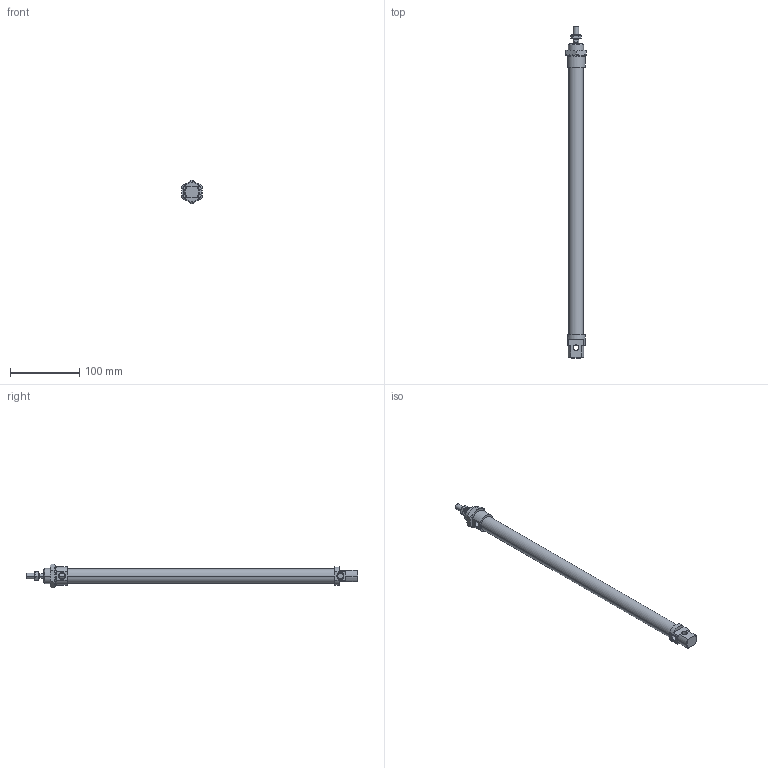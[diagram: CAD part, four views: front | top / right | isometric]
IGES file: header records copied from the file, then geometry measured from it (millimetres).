
Global section: file name: No Iges File Name specified; native system: AutoDesk Inventor R6.0; preprocessor: AutoDesk Inventor Iges Exporter R6.0; author: No Author specified; organization: No Organization specified; date: 20030407.191440; units: millimetre
Bounding box: 30 x 480 x 34.64 mm (x, y, z)
Volume: 167903 mm3; surface area: 55435 mm2
Topology: 4 solids, 4 shells, 124 faces, 281 edges, 170 vertices
Faces by surface type: plane 41, cone 38, bspline 21, cylinder 18, revolution 6
